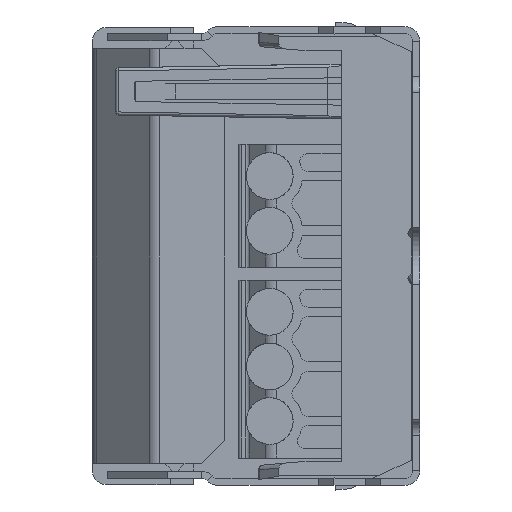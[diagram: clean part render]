
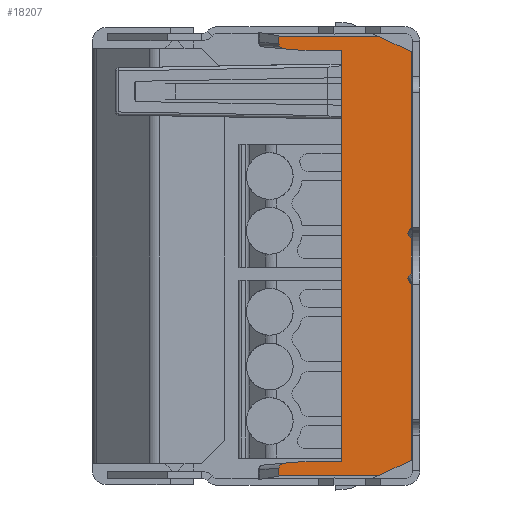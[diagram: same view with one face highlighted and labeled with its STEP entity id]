
A CAD part, left-side view. The second image highlights one B-rep face of the part: STEP entity #18207.
In plain terms, the highlighted planar face has unit normal (-1, 0, 0).
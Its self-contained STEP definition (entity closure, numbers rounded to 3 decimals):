
#363 = ORIENTED_EDGE ( 'NONE', *, *, #27802, .T. ) ;
#384 = VECTOR ( 'NONE', #22605, 1000. ) ;
#415 = VERTEX_POINT ( 'NONE', #26661 ) ;
#745 = DIRECTION ( 'NONE',  ( 0., -0.906, 0.423 ) ) ;
#1021 = VECTOR ( 'NONE', #25819, 1000. ) ;
#1074 = LINE ( 'NONE', #20282, #384 ) ;
#1131 = EDGE_LOOP ( 'NONE', ( #17492, #3796, #10423, #20803, #24842, #15479, #23599, #363, #25365, #24420, #28154, #1983, #14314, #1325, #1850, #2698 ) ) ;
#1325 = ORIENTED_EDGE ( 'NONE', *, *, #13429, .T. ) ;
#1429 = LINE ( 'NONE', #2840, #18850 ) ;
#1850 = ORIENTED_EDGE ( 'NONE', *, *, #2966, .T. ) ;
#1983 = ORIENTED_EDGE ( 'NONE', *, *, #27156, .T. ) ;
#1985 = CARTESIAN_POINT ( 'NONE',  ( -169.5, -0.447, 13.429 ) ) ;
#2159 = CARTESIAN_POINT ( 'NONE',  ( -169.5, -1.747, -13.2 ) ) ;
#2188 = CARTESIAN_POINT ( 'NONE',  ( -169.5, -0.845, 13.279 ) ) ;
#2203 = VECTOR ( 'NONE', #24844, 1000. ) ;
#2350 = VERTEX_POINT ( 'NONE', #25448 ) ;
#2357 = DIRECTION ( 'NONE',  ( 0., -0.996, 0.087 ) ) ;
#2548 = VECTOR ( 'NONE', #8556, 1000. ) ;
#2695 = DIRECTION ( 'NONE',  ( 0., -0.985, 0.174 ) ) ;
#2698 = ORIENTED_EDGE ( 'NONE', *, *, #20460, .F. ) ;
#2813 = CARTESIAN_POINT ( 'NONE',  ( -169.5, -4.478, 13.2 ) ) ;
#2840 = CARTESIAN_POINT ( 'NONE',  ( -169.5, -1.747, 13.2 ) ) ;
#2855 = CARTESIAN_POINT ( 'NONE',  ( -169.5, -6.803, -14.1 ) ) ;
#2930 = CARTESIAN_POINT ( 'NONE',  ( -169.5, -6.803, -14.1 ) ) ;
#2941 = CARTESIAN_POINT ( 'NONE',  ( -169.5, -6.803, 14.1 ) ) ;
#2966 = EDGE_CURVE ( 'NONE', #415, #28895, #23902, .T. ) ;
#3494 = VECTOR ( 'NONE', #17556, 1000. ) ;
#3796 = ORIENTED_EDGE ( 'NONE', *, *, #22112, .T. ) ;
#3921 = LINE ( 'NONE', #2159, #27320 ) ;
#3962 = VERTEX_POINT ( 'NONE', #21234 ) ;
#4019 = VERTEX_POINT ( 'NONE', #7962 ) ;
#4190 = EDGE_CURVE ( 'NONE', #27582, #20946, #20655, .T. ) ;
#4284 = CARTESIAN_POINT ( 'NONE',  ( -169.5, -0.609, 13.3 ) ) ;
#4306 = LINE ( 'NONE', #2930, #27720 ) ;
#4363 = VERTEX_POINT ( 'NONE', #22788 ) ;
#4496 = DIRECTION ( 'NONE',  ( 0., -1., 0. ) ) ;
#4607 = LINE ( 'NONE', #27887, #28011 ) ;
#5042 = EDGE_CURVE ( 'NONE', #10840, #21105, #28411, .T. ) ;
#5142 = DIRECTION ( 'NONE',  ( 0., 0.996, 0.087 ) ) ;
#5181 = VERTEX_POINT ( 'NONE', #20756 ) ;
#5765 = LINE ( 'NONE', #2941, #29134 ) ;
#6238 = CARTESIAN_POINT ( 'NONE',  ( -169.5, -1.747, 13.2 ) ) ;
#6380 = VERTEX_POINT ( 'NONE', #20233 ) ;
#7192 = CARTESIAN_POINT ( 'NONE',  ( -169.5, -8.147, 14.1 ) ) ;
#7327 = DIRECTION ( 'NONE',  ( 0., 0., -1. ) ) ;
#7817 = LINE ( 'NONE', #23564, #1021 ) ;
#7962 = CARTESIAN_POINT ( 'NONE',  ( -169.5, -0.497, 14.1 ) ) ;
#8107 = DIRECTION ( 'NONE',  ( 0., -1., 0. ) ) ;
#8528 = VECTOR ( 'NONE', #8107, 1000. ) ;
#8556 = DIRECTION ( 'NONE',  ( 0., 1., 0. ) ) ;
#8596 = LINE ( 'NONE', #9251, #14589 ) ;
#9021 = CARTESIAN_POINT ( 'NONE',  ( -169.5, -0.845, -13.279 ) ) ;
#9231 = LINE ( 'NONE', #23941, #8528 ) ;
#9251 = CARTESIAN_POINT ( 'NONE',  ( -169.5, -8.947, -13.1 ) ) ;
#9484 = DIRECTION ( 'NONE',  ( 0., 0., -1. ) ) ;
#9565 = LINE ( 'NONE', #28835, #3494 ) ;
#9933 = FACE_OUTER_BOUND ( 'NONE', #1131, .T. ) ;
#10423 = ORIENTED_EDGE ( 'NONE', *, *, #28898, .F. ) ;
#10687 = AXIS2_PLACEMENT_3D ( 'NONE', #7192, #23041, #9484 ) ;
#10834 = EDGE_CURVE ( 'NONE', #5181, #4363, #1074, .T. ) ;
#10840 = VERTEX_POINT ( 'NONE', #9021 ) ;
#11077 = CARTESIAN_POINT ( 'NONE',  ( -169.5, -0.447, 13.596 ) ) ;
#11667 = CARTESIAN_POINT ( 'NONE',  ( -169.5, -8.947, -13.1 ) ) ;
#12142 = CARTESIAN_POINT ( 'NONE',  ( -169.5, -0.497, -14.1 ) ) ;
#12176 = VERTEX_POINT ( 'NONE', #12142 ) ;
#12846 = EDGE_CURVE ( 'NONE', #25866, #20945, #4306, .T. ) ;
#13374 = EDGE_CURVE ( 'NONE', #2350, #12176, #4607, .T. ) ;
#13429 = EDGE_CURVE ( 'NONE', #19790, #415, #7817, .T. ) ;
#13466 = CARTESIAN_POINT ( 'NONE',  ( -169.5, -0.447, -13.429 ) ) ;
#14314 = ORIENTED_EDGE ( 'NONE', *, *, #28385, .T. ) ;
#14589 = VECTOR ( 'NONE', #22815, 1000. ) ;
#15479 = ORIENTED_EDGE ( 'NONE', *, *, #22559, .T. ) ;
#15612 = CARTESIAN_POINT ( 'NONE',  ( -169.5, -0.447, -14.338 ) ) ;
#15738 = CARTESIAN_POINT ( 'NONE',  ( -169.5, -0.845, -13.279 ) ) ;
#16984 = EDGE_CURVE ( 'NONE', #10840, #6380, #3921, .T. ) ;
#17492 = ORIENTED_EDGE ( 'NONE', *, *, #4190, .F. ) ;
#17556 = DIRECTION ( 'NONE',  ( 0., 0.985, 0.174 ) ) ;
#17767 = CARTESIAN_POINT ( 'NONE',  ( -169.5, -0.447, 14.109 ) ) ;
#17963 = VECTOR ( 'NONE', #4496, 1000. ) ;
#18006 = CARTESIAN_POINT ( 'NONE',  ( -169.5, -0.447, -13.596 ) ) ;
#18207 = ADVANCED_FACE ( 'NONE', ( #9933 ), #20632, .F. ) ;
#18614 = CARTESIAN_POINT ( 'NONE',  ( -169.5, -4.478, -11.85 ) ) ;
#18850 = VECTOR ( 'NONE', #5142, 1000. ) ;
#19790 = VERTEX_POINT ( 'NONE', #17767 ) ;
#20146 = CARTESIAN_POINT ( 'NONE',  ( -169.5, -0.845, 13.279 ) ) ;
#20233 = CARTESIAN_POINT ( 'NONE',  ( -169.5, -1.747, -13.2 ) ) ;
#20282 = CARTESIAN_POINT ( 'NONE',  ( -169.5, -6.803, 14.1 ) ) ;
#20298 = LINE ( 'NONE', #15612, #2203 ) ;
#20460 = EDGE_CURVE ( 'NONE', #20946, #28895, #1429, .T. ) ;
#20632 = PLANE ( 'NONE',  #10687 ) ;
#20655 = LINE ( 'NONE', #6238, #2548 ) ;
#20756 = CARTESIAN_POINT ( 'NONE',  ( -169.5, -8.947, 13.1 ) ) ;
#20803 = ORIENTED_EDGE ( 'NONE', *, *, #16984, .F. ) ;
#20945 = VERTEX_POINT ( 'NONE', #11667 ) ;
#20946 = VERTEX_POINT ( 'NONE', #27495 ) ;
#21105 = VERTEX_POINT ( 'NONE', #25824 ) ;
#21234 = CARTESIAN_POINT ( 'NONE',  ( -169.5, -4.478, -13.2 ) ) ;
#21798 = VECTOR ( 'NONE', #7327, 1000. ) ;
#22112 = EDGE_CURVE ( 'NONE', #27582, #3962, #27807, .T. ) ;
#22559 = EDGE_CURVE ( 'NONE', #21105, #2350, #20298, .T. ) ;
#22605 = DIRECTION ( 'NONE',  ( 0., 0.906, 0.423 ) ) ;
#22788 = CARTESIAN_POINT ( 'NONE',  ( -169.5, -6.803, 14.1 ) ) ;
#22815 = DIRECTION ( 'NONE',  ( 0., 0., 1. ) ) ;
#23041 = DIRECTION ( 'NONE',  ( 1., 0., 0. ) ) ;
#23564 = CARTESIAN_POINT ( 'NONE',  ( -169.5, -0.447, 13.428 ) ) ;
#23599 = ORIENTED_EDGE ( 'NONE', *, *, #13374, .T. ) ;
#23902 =( BOUNDED_CURVE ( )  B_SPLINE_CURVE ( 3, ( #11077, #1985, #4284, #20146 ),
 .UNSPECIFIED., .F., .F. ) 
 B_SPLINE_CURVE_WITH_KNOTS ( ( 4, 4 ),
 ( 0.062, 1.571 ),
 .UNSPECIFIED. ) 
 CURVE ( )  GEOMETRIC_REPRESENTATION_ITEM ( )  RATIONAL_B_SPLINE_CURVE ( ( 1., 0.819, 0.819, 1. ) ) 
 REPRESENTATION_ITEM ( '' )  );
#23941 = CARTESIAN_POINT ( 'NONE',  ( -169.5, -6.803, -14.1 ) ) ;
#24011 = LINE ( 'NONE', #27067, #17963 ) ;
#24264 = EDGE_CURVE ( 'NONE', #20945, #5181, #8596, .T. ) ;
#24420 = ORIENTED_EDGE ( 'NONE', *, *, #24264, .T. ) ;
#24842 = ORIENTED_EDGE ( 'NONE', *, *, #5042, .T. ) ;
#24844 = DIRECTION ( 'NONE',  ( 0., 0., -1. ) ) ;
#25365 = ORIENTED_EDGE ( 'NONE', *, *, #12846, .T. ) ;
#25448 = CARTESIAN_POINT ( 'NONE',  ( -169.5, -0.447, -14.109 ) ) ;
#25819 = DIRECTION ( 'NONE',  ( 0., 0., -1. ) ) ;
#25824 = CARTESIAN_POINT ( 'NONE',  ( -169.5, -0.447, -13.596 ) ) ;
#25866 = VERTEX_POINT ( 'NONE', #2855 ) ;
#26661 = CARTESIAN_POINT ( 'NONE',  ( -169.5, -0.447, 13.596 ) ) ;
#27067 = CARTESIAN_POINT ( 'NONE',  ( -169.5, -1.747, -13.2 ) ) ;
#27156 = EDGE_CURVE ( 'NONE', #4363, #4019, #5765, .T. ) ;
#27320 = VECTOR ( 'NONE', #2357, 1000. ) ;
#27495 = CARTESIAN_POINT ( 'NONE',  ( -169.5, -1.747, 13.2 ) ) ;
#27582 = VERTEX_POINT ( 'NONE', #2813 ) ;
#27720 = VECTOR ( 'NONE', #745, 1000. ) ;
#27802 = EDGE_CURVE ( 'NONE', #12176, #25866, #9231, .T. ) ;
#27807 = LINE ( 'NONE', #18614, #21798 ) ;
#27887 = CARTESIAN_POINT ( 'NONE',  ( -169.5, 0.853, -14.338 ) ) ;
#28011 = VECTOR ( 'NONE', #2695, 1000. ) ;
#28037 = DIRECTION ( 'NONE',  ( 0., 1., 0. ) ) ;
#28154 = ORIENTED_EDGE ( 'NONE', *, *, #10834, .T. ) ;
#28385 = EDGE_CURVE ( 'NONE', #4019, #19790, #9565, .T. ) ;
#28411 =( BOUNDED_CURVE ( )  B_SPLINE_CURVE ( 3, ( #15738, #29266, #13466, #18006 ),
 .UNSPECIFIED., .F., .F. ) 
 B_SPLINE_CURVE_WITH_KNOTS ( ( 4, 4 ),
 ( 1.571, 3.08 ),
 .UNSPECIFIED. ) 
 CURVE ( )  GEOMETRIC_REPRESENTATION_ITEM ( )  RATIONAL_B_SPLINE_CURVE ( ( 1., 0.819, 0.819, 1. ) ) 
 REPRESENTATION_ITEM ( '' )  );
#28835 = CARTESIAN_POINT ( 'NONE',  ( -169.5, 0.853, 14.338 ) ) ;
#28895 = VERTEX_POINT ( 'NONE', #2188 ) ;
#28898 = EDGE_CURVE ( 'NONE', #6380, #3962, #24011, .T. ) ;
#29134 = VECTOR ( 'NONE', #28037, 1000. ) ;
#29266 = CARTESIAN_POINT ( 'NONE',  ( -169.5, -0.609, -13.299 ) ) ;
